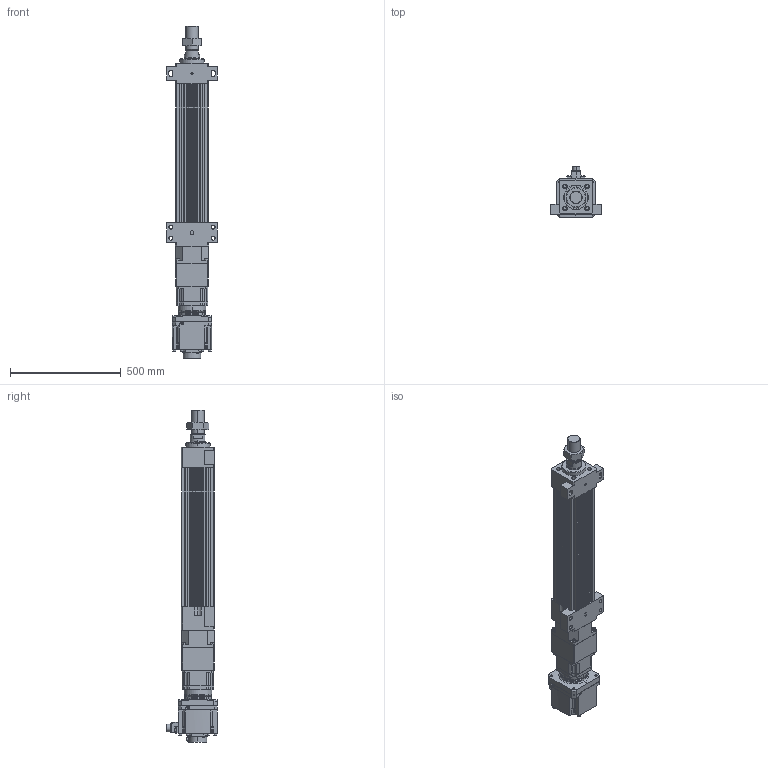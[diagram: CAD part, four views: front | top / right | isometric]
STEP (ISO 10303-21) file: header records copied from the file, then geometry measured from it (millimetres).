
FILE_DESCRIPTION (( 'STEP AP203' ), '1' );
FILE_NAME ('HES150NS(HS)-S350-W035G00-M-FFB.STEP', '2023-01-31T12:38:40', ( 'tms' ), ( '' ), 'SwSTEP 2.0', 'SolidWorks 2013', '' );
FILE_SCHEMA (( 'CONFIG_CONTROL_DESIGN' ));
Length unit declared in the file: millimetre
Products named in the file (9): AB142-003[HG-SR352]; P1301500001; M56X2.0P; HES150NS(HS)-S350-W035G00-M-FFB; AB1421; P0403500801; HES150 ROD M ST350; HES150-S350-G142-FFB; HG-SR352
Assembly tree (8 placements, depth 3):
  HES150NS(HS)-S350-W035G00-M-FFB
    HES150-S350-G142-FFB
    HES150 ROD M ST350
    M56X2.0P
    AB142-003[HG-SR352]
      AB1421
      P1301500001
      P0403500801
    HG-SR352
Bounding box: 230 x 228.85 x 1497.5 mm (x, y, z)
Volume: 17103627.5 mm3; surface area: 1846111.5 mm2
Topology: 5 solids, 23 shells, 1522 faces, 3951 edges, 2569 vertices
Faces by surface type: cylinder 691, plane 599, cone 150, bspline 76, torus 6
Entity records: 55583 total; most frequent: CARTESIAN_POINT 16843, DIRECTION 8091, ORIENTED_EDGE 7808, EDGE_CURVE 3926, AXIS2_PLACEMENT_3D 3042, VERTEX_POINT 2569, LINE 2007, VECTOR 2007
